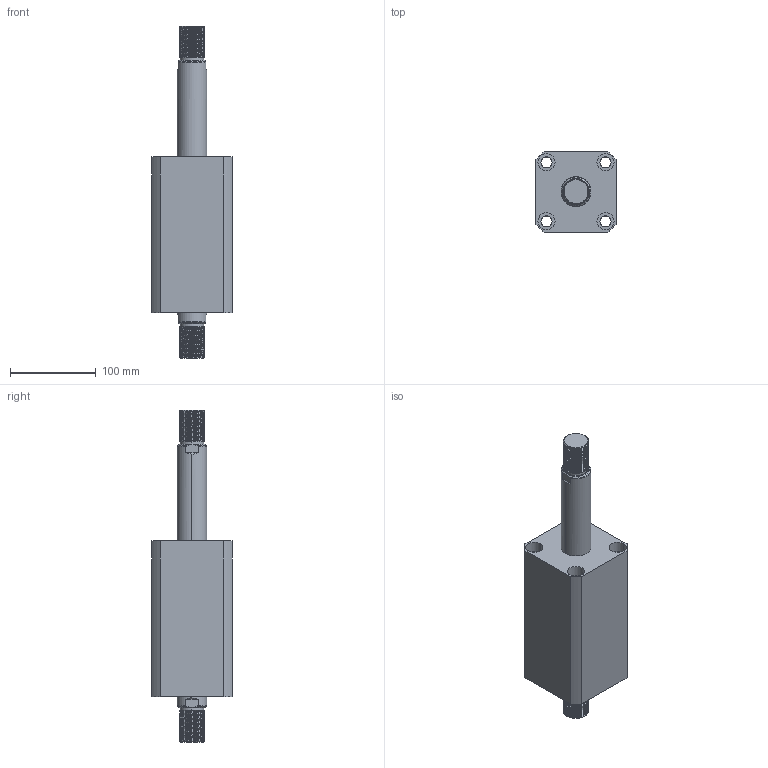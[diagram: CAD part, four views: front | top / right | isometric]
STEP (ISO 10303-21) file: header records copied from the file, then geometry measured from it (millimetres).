
FILE_DESCRIPTION (( 'STEP AP214' ), '1' );
FILE_NAME ('chtb-sw63x100w_asm.STEP', '2018-05-19T03:39:29', ( 'Windows' ), ( 'Microsoft' ), 'SwSTEP 2.0', 'SolidWorks 2015', '' );
FILE_SCHEMA (( 'AUTOMOTIVE_DESIGN' ));
Length unit declared in the file: millimetre
Products named in the file (4): CHTB-63QG; chtb-sw63x100w_asm; CHTB-SW63X100WHSG; CHTB-SW63X100NBT
Assembly tree (3 placements, depth 2):
  chtb-sw63x100w_asm
    CHTB-63QG
    CHTB-SW63X100NBT
    CHTB-SW63X100WHSG
Bounding box: 94 x 94 x 388 mm (x, y, z)
Volume: 1414110.5 mm3; surface area: 221365.9 mm2
Topology: 3 solids, 3 shells, 296 faces, 841 edges, 569 vertices
Faces by surface type: cylinder 206, plane 46, bspline 16, cone 16, torus 12
Entity records: 27380 total; most frequent: CARTESIAN_POINT 20442, ORIENTED_EDGE 1674, DIRECTION 1166, EDGE_CURVE 837, VERTEX_POINT 569, AXIS2_PLACEMENT_3D 453, EDGE_LOOP 334, FACE_OUTER_BOUND 296
